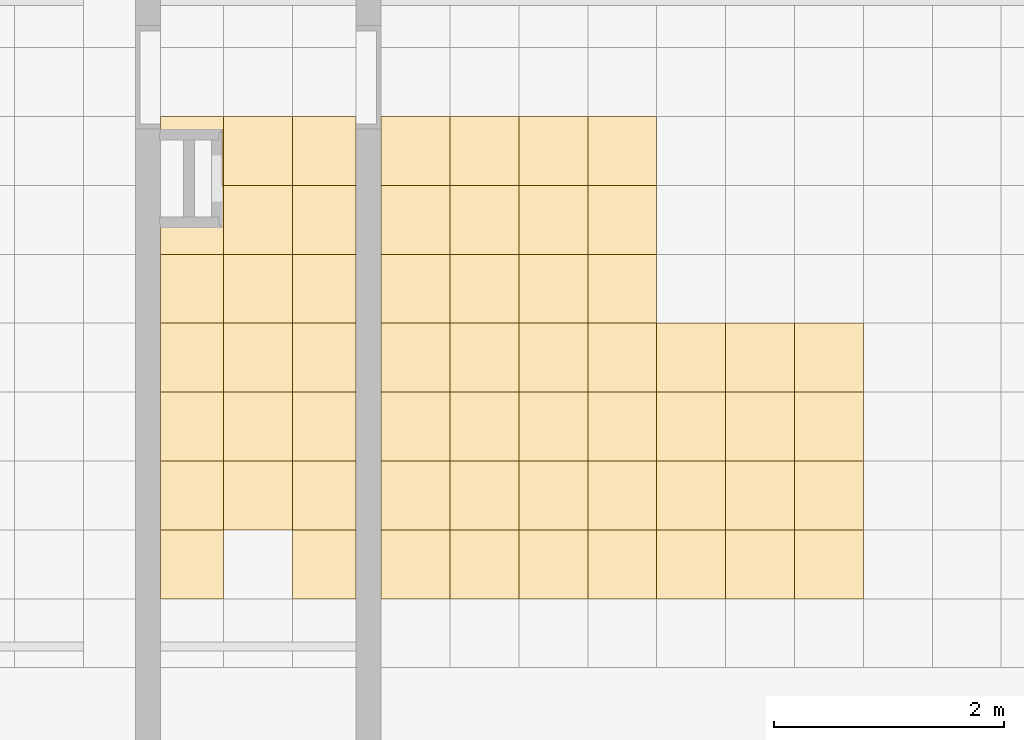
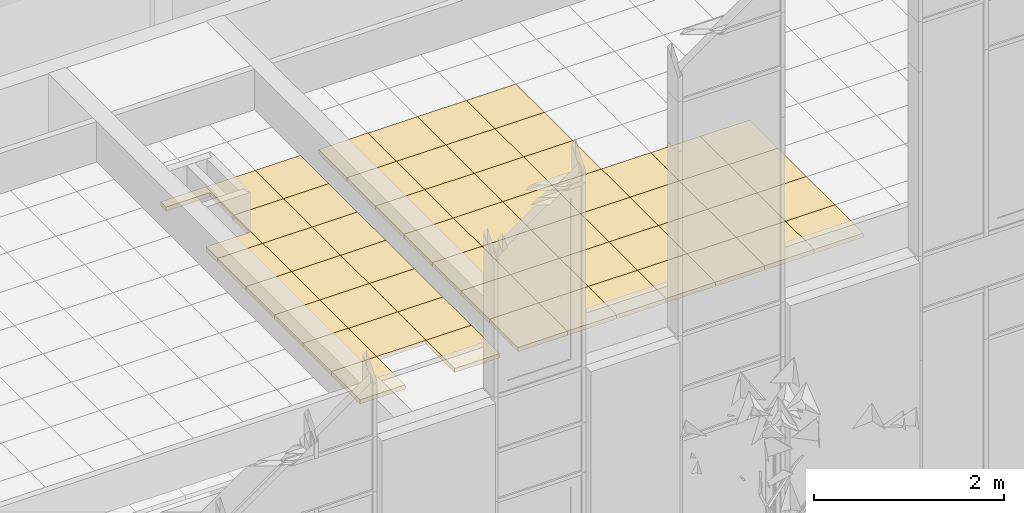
# One storey, part 196 of 246: 60 coverings.
"""IFC2X3 building model written with IfcOpenShell, lengths in millimetres."""

from ifc_helpers import new_model, entity, si_unit, converted_unit, derived_unit, money_unit, direction, frame, origin_with_axes, place, context, subcontext, project, spatial, faceted_brep, material, material_list, type_object, element, save


model = new_model("IFC2X3")

# Units and contexts
model_context = context("Model", 3, precision=0.01, world=origin_with_axes(), true_north=direction((0.0, 1.0)))
body_context = subcontext(model_context, "Body", "Model", "MODEL_VIEW")
ifc_project = project(units=[si_unit("LENGTHUNIT", "METRE", prefix="MILLI"), si_unit("AREAUNIT", "SQUARE_METRE"), si_unit("VOLUMEUNIT", "CUBIC_METRE"), converted_unit("PLANEANGLEUNIT", "DEGREE", entity("IfcPlaneAngleMeasure", 0.0174532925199), si_unit("PLANEANGLEUNIT", "RADIAN"), dimensions=[0, 0, 0, 0, 0, 0, 0]), si_unit("SOLIDANGLEUNIT", "STERADIAN"), money_unit("EUR"), converted_unit("TIMEUNIT", "Year", entity("IfcTimeMeasure", 31556926.0), si_unit("TIMEUNIT", "SECOND"), dimensions=[0, 0, 1, 0, 0, 0, 0]), si_unit("MASSUNIT", "GRAM", prefix="KILO"), si_unit("THERMODYNAMICTEMPERATUREUNIT", "DEGREE_CELSIUS"), si_unit("LUMINOUSINTENSITYUNIT", "LUMEN"), si_unit("ENERGYUNIT", "JOULE", prefix="MEGA"), derived_unit("THERMALCONDUCTANCEUNIT", [(si_unit("POWERUNIT", "WATT"), 1), (si_unit("LENGTHUNIT", "METRE"), -1), (si_unit("THERMODYNAMICTEMPERATUREUNIT", "KELVIN"), -1)]), derived_unit("SPECIFICHEATCAPACITYUNIT", [(si_unit("ENERGYUNIT", "JOULE"), 1), (si_unit("MASSUNIT", "GRAM", prefix="KILO"), -1), (si_unit("THERMODYNAMICTEMPERATUREUNIT", "KELVIN"), -1)]), derived_unit("MASSDENSITYUNIT", [(si_unit("MASSUNIT", "GRAM", prefix="KILO"), 1), (si_unit("VOLUMEUNIT", "CUBIC_METRE"), -1)])], contexts=[model_context])

# Site, building, storey
site_placement = place(None, origin_with_axes())
site = spatial("IfcSite", under=ifc_project, at=site_placement, Name="L.Koidula tn 11b", CompositionType="ELEMENT")
building_placement = place(site_placement, origin_with_axes())
building = spatial("IfcBuilding", under=site, at=building_placement, Name="Rakvere Riigigümnaasium", CompositionType="ELEMENT")
storey_placement = place(building_placement, origin_with_axes())
storey = spatial("IfcBuildingStorey", under=building, at=storey_placement, Name="1.korrus 0,00", CompositionType="ELEMENT", Elevation=0.0)

# Coverings
ifc_material_1 = material(Name="Karkass")
ifc_material_2 = material(Name="Kipsplaat")
ifc_material_list = material_list([ifc_material_1, ifc_material_2])
covering_type = type_object("IfcCoveringType", Name="SA-LV-Kips-moodul 55", PredefinedType="CEILING")
covering_1_placement = place(storey_placement, frame((84889.6975378, 8090.45445845, 2750.0), z_axis=(0.0, 0.0, 1.0), x_axis=(1.0, 0.0, 0.0)))
element("IfcCovering", 1, at=covering_1_placement, inside=storey, type_object=covering_type, material=ifc_material_list, Name="L-03", PredefinedType="CEILING", context=body_context, shape_type="Brep", body=[
    faceted_brep([(-550.000060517, 0.0, 12.5), (-550.000060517, 0.0, 54.5), (0.0, 0.0, 54.5), (0.0, 0.0, 12.5), (-550.000060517, -599.999985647, 12.5), (-550.000060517, -599.999985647, 54.5), (0.0, -599.999985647, 54.5), (0.0, -599.999985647, 12.5)], [[[0, 1, 2, 3]], [[4, 5, 1, 0]], [[2, 1, 5, 6]], [[3, 2, 6, 7]], [[3, 7, 4, 0]], [[7, 6, 5, 4]]]),
    faceted_brep([(0.0, 0.0, 0.0), (-550.000060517, 0.0, 0.0), (-550.000060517, 0.0, 12.5), (0.0, 0.0, 12.5), (0.0, -599.999985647, 0.0), (-550.000060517, -599.999985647, 0.0), (-550.000060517, -599.999985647, 12.5), (0.0, -599.999985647, 12.5)], [[[0, 1, 2, 3]], [[0, 4, 5, 1]], [[1, 5, 6, 2]], [[3, 2, 6, 7]], [[4, 0, 3, 7]], [[5, 4, 7, 6]]]),
])
covering_2_placement = place(storey_placement, frame((84889.6974833, 8690.4544588, 2750.0), z_axis=(0.0, 0.0, 1.0), x_axis=(1.0, 0.0, 0.0)))
element("IfcCovering", 2, at=covering_2_placement, inside=storey, type_object=covering_type, material=ifc_material_list, Name="L-03", PredefinedType="CEILING", context=body_context, shape_type="Brep", body=[
    faceted_brep([(-549.999958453, 0.0, 12.5), (-549.999958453, 0.0, 54.5), (0.0, 0.0, 54.5), (0.0, 0.0, 12.5), (-549.999958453, -599.999985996, 12.5), (-549.999958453, -599.999985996, 54.5), (0.0, -599.999985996, 54.5), (0.0, -599.999985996, 12.5)], [[[0, 1, 2, 3]], [[4, 5, 1, 0]], [[2, 1, 5, 6]], [[3, 2, 6, 7]], [[3, 7, 4, 0]], [[7, 6, 5, 4]]]),
    faceted_brep([(0.0, 0.0, 0.0), (-549.999958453, 0.0, 0.0), (-549.999958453, 0.0, 12.5), (0.0, 0.0, 12.5), (0.0, -599.999985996, 0.0), (-549.999958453, -599.999985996, 0.0), (-549.999958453, -599.999985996, 12.5), (0.0, -599.999985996, 12.5)], [[[0, 1, 2, 3]], [[0, 4, 5, 1]], [[1, 5, 6, 2]], [[3, 2, 6, 7]], [[4, 0, 3, 7]], [[5, 4, 7, 6]]]),
])
covering_3_placement = place(storey_placement, frame((84889.6975307, 9290.4544918, 2750.0), z_axis=(0.0, 0.0, 1.0), x_axis=(1.0, 0.0, 0.0)))
element("IfcCovering", 3, at=covering_3_placement, inside=storey, type_object=covering_type, material=ifc_material_list, Name="L-03", PredefinedType="CEILING", context=body_context, shape_type="Brep", body=[
    faceted_brep([(-549.999997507, 0.0, 12.5), (-549.999997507, 0.0, 54.5), (0.0, 0.0, 54.5), (0.0, 0.0, 12.5), (-549.999997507, -600.000018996, 12.5), (-549.999997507, -600.000018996, 54.5), (0.0, -600.000018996, 54.5), (0.0, -600.000018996, 12.5)], [[[0, 1, 2, 3]], [[4, 5, 1, 0]], [[2, 1, 5, 6]], [[3, 2, 6, 7]], [[3, 7, 4, 0]], [[7, 6, 5, 4]]]),
    faceted_brep([(0.0, 0.0, 0.0), (-549.999997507, 0.0, 0.0), (-549.999997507, 0.0, 12.5), (0.0, 0.0, 12.5), (0.0, -600.000018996, 0.0), (-549.999997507, -600.000018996, 0.0), (-549.999997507, -600.000018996, 12.5), (0.0, -600.000018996, 12.5)], [[[0, 1, 2, 3]], [[0, 4, 5, 1]], [[1, 5, 6, 2]], [[3, 2, 6, 7]], [[4, 0, 3, 7]], [[5, 4, 7, 6]]]),
])
for number, where, z_axis, x_axis, name in (
    (4, (84889.6975109, 9890.4544728, 2750.0), (0.0, 0.0, 1.0), (1.0, 0.0, 0.0), "L-03"),
    (5, (84889.6975109, 10490.4544728, 2750.0), (0.0, 0.0, 1.0), (1.0, 0.0, 0.0), "L-03"),
):
    element("IfcCovering", number, at=place(storey_placement, frame(where, z_axis=z_axis, x_axis=x_axis)), inside=storey, type_object=covering_type, material=ifc_material_list, Name=name, PredefinedType="CEILING", context=body_context, shape_type="Brep", body=[
        faceted_brep([(-550.0, 0.0, 12.5), (-550.0, 0.0, 54.5), (0.0, 0.0, 54.5), (0.0, 0.0, 12.5), (-550.0, -600.0, 12.5), (-550.0, -600.0, 54.5), (0.0, -600.0, 54.5), (0.0, -600.0, 12.5)], [[[0, 1, 2, 3]], [[4, 5, 1, 0]], [[2, 1, 5, 6]], [[3, 2, 6, 7]], [[3, 7, 4, 0]], [[7, 6, 5, 4]]]),
        faceted_brep([(0.0, 0.0, 0.0), (-550.0, 0.0, 0.0), (-550.0, 0.0, 12.5), (0.0, 0.0, 12.5), (0.0, -600.0, 0.0), (-550.0, -600.0, 0.0), (-550.0, -600.0, 12.5), (0.0, -600.0, 12.5)], [[[0, 1, 2, 3]], [[0, 4, 5, 1]], [[1, 5, 6, 2]], [[3, 2, 6, 7]], [[4, 0, 3, 7]], [[5, 4, 7, 6]]]),
    ])
covering_4_placement = place(storey_placement, frame((83189.6974921, 7490.4544438, 2750.0), z_axis=(0.0, 0.0, 1.0), x_axis=(1.0, 0.0, 0.0)))
element("IfcCovering", 6, at=covering_4_placement, inside=storey, type_object=covering_type, material=ifc_material_list, Name="L-03", PredefinedType="CEILING", context=body_context, shape_type="Brep", body=[
    faceted_brep([(0.0, -599.999970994, 12.5), (0.0, -599.999970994, 54.5), (0.0, 0.0, 54.5), (0.0, 0.0, 12.5), (550.000044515, -599.999970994, 12.5), (550.000044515, -599.999970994, 54.5), (550.000044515, 0.0, 54.5), (550.000044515, 0.0, 12.5)], [[[0, 1, 2, 3]], [[4, 5, 1, 0]], [[2, 1, 5, 6]], [[3, 2, 6, 7]], [[3, 7, 4, 0]], [[7, 6, 5, 4]]]),
    faceted_brep([(0.0, 0.0, 0.0), (0.0, -599.999970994, 0.0), (0.0, -599.999970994, 12.5), (0.0, 0.0, 12.5), (550.000044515, 0.0, 0.0), (550.000044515, -599.999970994, 0.0), (550.000044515, -599.999970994, 12.5), (550.000044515, 0.0, 12.5)], [[[0, 1, 2, 3]], [[0, 4, 5, 1]], [[1, 5, 6, 2]], [[3, 2, 6, 7]], [[4, 0, 3, 7]], [[5, 4, 7, 6]]]),
])
covering_5_placement = place(storey_placement, frame((84339.6975109, 11090.4544712, 2750.0), z_axis=(0.0, 0.0, 1.0), x_axis=(1.0, 0.0, 0.0)))
element("IfcCovering", 7, at=covering_5_placement, inside=storey, type_object=covering_type, material=ifc_material_list, Name="L-03", PredefinedType="CEILING", context=body_context, shape_type="Brep", body=[
    faceted_brep([(-599.999993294, 0.0, 12.5), (-599.999993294, 0.0, 54.5), (0.0, 0.0, 54.5), (0.0, 0.0, 12.5), (-599.999993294, -599.999993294, 12.5), (-599.999993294, -599.999993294, 54.5), (0.0, -599.999993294, 54.5), (0.0, -599.999993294, 12.5)], [[[0, 1, 2, 3]], [[4, 5, 1, 0]], [[2, 1, 5, 6]], [[3, 2, 6, 7]], [[3, 7, 4, 0]], [[7, 6, 5, 4]]]),
    faceted_brep([(0.0, 0.0, 0.0), (-599.999993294, 0.0, 0.0), (-599.999993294, 0.0, 12.5), (0.0, 0.0, 12.5), (0.0, -599.999993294, 0.0), (-599.999993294, -599.999993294, 0.0), (-599.999993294, -599.999993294, 12.5), (0.0, -599.999993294, 12.5)], [[[0, 1, 2, 3]], [[0, 4, 5, 1]], [[1, 5, 6, 2]], [[3, 2, 6, 7]], [[4, 0, 3, 7]], [[5, 4, 7, 6]]]),
])
covering_6_placement = place(storey_placement, frame((83189.6975126, 11090.4544728, 2750.0), z_axis=(0.0, 0.0, 1.0), x_axis=(1.0, 0.0, 0.0)))
element("IfcCovering", 8, at=covering_6_placement, inside=storey, type_object=covering_type, material=ifc_material_list, Name="L-03", PredefinedType="CEILING", context=body_context, shape_type="Brep", body=[
    faceted_brep([(0.0, -115.001137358, 12.5), (0.0, -115.001137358, 54.5), (0.0, 0.0, 54.5), (0.0, 0.0, 12.5), (534.799996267, -115.001137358, 12.5), (534.799996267, -115.001137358, 54.5), (534.799996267, -600.000009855, 54.5), (550.000000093, -600.000009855, 54.5), (550.000000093, 0.0, 54.5), (550.000000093, 0.0, 12.5), (550.000000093, -600.000009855, 12.5), (534.799996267, -600.000009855, 12.5)], [[[0, 1, 2, 3]], [[4, 5, 1, 0]], [[2, 1, 5, 6, 7, 8]], [[3, 2, 8, 9]], [[3, 9, 10, 11, 4, 0]], [[11, 6, 5, 4]], [[10, 7, 6, 11]], [[9, 8, 7, 10]]]),
    faceted_brep([(0.0, 0.0, 0.0), (0.0, -115.001137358, 0.0), (0.0, -115.001137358, 12.5), (0.0, 0.0, 12.5), (550.000000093, 0.0, 0.0), (550.000000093, -600.000009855, 0.0), (534.799996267, -600.000009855, 0.0), (534.799996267, -115.001137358, 0.0), (534.799996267, -115.001137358, 12.5), (534.799996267, -600.000009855, 12.5), (550.000000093, -600.000009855, 12.5), (550.000000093, 0.0, 12.5)], [[[0, 1, 2, 3]], [[0, 4, 5, 6, 7, 1]], [[1, 7, 8, 2]], [[3, 2, 8, 9, 10, 11]], [[4, 0, 3, 11]], [[5, 4, 11, 10]], [[6, 5, 10, 9]], [[7, 6, 9, 8]]]),
])
covering_7_placement = place(storey_placement, frame((84339.6975109, 10490.4544661, 2750.0), z_axis=(0.0, 0.0, 1.0), x_axis=(1.0, 0.0, 0.0)))
element("IfcCovering", 9, at=covering_7_placement, inside=storey, type_object=covering_type, material=ifc_material_list, Name="L-03", PredefinedType="CEILING", context=body_context, shape_type="Brep", body=[
    faceted_brep([(-599.999993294, 0.0, 12.5), (-599.999993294, 0.0, 54.5), (0.0, 0.0, 54.5), (0.0, 0.0, 12.5), (-599.999993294, -599.999993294, 12.5), (-599.999993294, -599.999993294, 54.5), (0.0, -599.999993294, 54.5), (0.0, -599.999993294, 12.5)], [[[0, 1, 2, 3]], [[4, 5, 1, 0]], [[2, 1, 5, 6]], [[3, 2, 6, 7]], [[3, 7, 4, 0]], [[7, 6, 5, 4]]]),
    faceted_brep([(0.0, 0.0, 0.0), (-599.999993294, 0.0, 0.0), (-599.999993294, 0.0, 12.5), (0.0, 0.0, 12.5), (0.0, -599.999993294, 0.0), (-599.999993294, -599.999993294, 0.0), (-599.999993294, -599.999993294, 12.5), (0.0, -599.999993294, 12.5)], [[[0, 1, 2, 3]], [[0, 4, 5, 1]], [[1, 5, 6, 2]], [[3, 2, 6, 7]], [[4, 0, 3, 7]], [[5, 4, 7, 6]]]),
])
covering_8_placement = place(storey_placement, frame((83189.6975181, 9890.4544728, 2750.0), z_axis=(0.0, 0.0, 1.0), x_axis=(1.0, 0.0, 0.0)))
element("IfcCovering", 10, at=covering_8_placement, inside=storey, type_object=covering_type, material=ifc_material_list, Name="L-03", PredefinedType="CEILING", context=body_context, shape_type="Brep", body=[
    faceted_brep([(549.999985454, 0.0, 12.5), (549.999985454, 0.0, 54.5), (0.0, 0.0, 54.5), (0.0, 0.0, 12.5), (549.999985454, 599.999992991, 12.5), (549.999985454, 599.999992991, 54.5), (534.800003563, 599.999992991, 54.5), (534.800003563, 245.001724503, 54.5), (0.299978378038, 245.001724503, 54.5), (0.0, 245.001724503, 54.5), (0.0, 245.001724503, 12.5), (0.299978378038, 245.001724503, 12.5), (534.800003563, 245.001724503, 12.5), (534.800003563, 599.999992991, 12.5)], [[[0, 1, 2, 3]], [[4, 5, 1, 0]], [[2, 1, 5, 6, 7, 8, 9]], [[3, 2, 9, 10]], [[3, 10, 11, 12, 13, 4, 0]], [[13, 6, 5, 4]], [[12, 7, 6, 13]], [[11, 8, 7, 12]], [[10, 9, 8, 11]]]),
    faceted_brep([(0.0, 0.0, 0.0), (549.999985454, 0.0, 0.0), (549.999985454, 0.0, 12.5), (0.0, 0.0, 12.5), (0.0, 245.001724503, 0.0), (0.299978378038, 245.001724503, 0.0), (534.800003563, 245.001724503, 0.0), (534.800003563, 599.999992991, 0.0), (549.999985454, 599.999992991, 0.0), (549.999985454, 599.999992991, 12.5), (534.800003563, 599.999992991, 12.5), (534.800003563, 245.001724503, 12.5), (0.299978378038, 245.001724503, 12.5), (0.0, 245.001724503, 12.5)], [[[0, 1, 2, 3]], [[0, 4, 5, 6, 7, 8, 1]], [[1, 8, 9, 2]], [[3, 2, 9, 10, 11, 12, 13]], [[4, 0, 3, 13]], [[5, 4, 13, 12]], [[6, 5, 12, 11]], [[7, 6, 11, 10]], [[8, 7, 10, 9]]]),
])
covering_9_placement = place(storey_placement, frame((84339.6975127, 9890.454485, 2750.0), z_axis=(0.0, 0.0, 1.0), x_axis=(1.0, 0.0, 0.0)))
element("IfcCovering", 11, at=covering_9_placement, inside=storey, type_object=covering_type, material=ifc_material_list, Name="L-03", PredefinedType="CEILING", context=body_context, shape_type="Brep", body=[
    faceted_brep([(-600.000012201, 0.0, 12.5), (-600.000012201, 0.0, 54.5), (0.0, 0.0, 54.5), (0.0, 0.0, 12.5), (-600.000012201, -600.000012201, 12.5), (-600.000012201, -600.000012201, 54.5), (0.0, -600.000012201, 54.5), (0.0, -600.000012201, 12.5)], [[[0, 1, 2, 3]], [[4, 5, 1, 0]], [[2, 1, 5, 6]], [[3, 2, 6, 7]], [[3, 7, 4, 0]], [[7, 6, 5, 4]]]),
    faceted_brep([(0.0, 0.0, 0.0), (-600.000012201, 0.0, 0.0), (-600.000012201, 0.0, 12.5), (0.0, 0.0, 12.5), (0.0, -600.000012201, 0.0), (-600.000012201, -600.000012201, 0.0), (-600.000012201, -600.000012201, 12.5), (0.0, -600.000012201, 12.5)], [[[0, 1, 2, 3]], [[0, 4, 5, 1]], [[1, 5, 6, 2]], [[3, 2, 6, 7]], [[4, 0, 3, 7]], [[5, 4, 7, 6]]]),
])
covering_10_placement = place(storey_placement, frame((83189.6975187, 9890.454485, 2750.0), z_axis=(0.0, 0.0, 1.0), x_axis=(1.0, 0.0, 0.0)))
element("IfcCovering", 12, at=covering_10_placement, inside=storey, type_object=covering_type, material=ifc_material_list, Name="L-03", PredefinedType="CEILING", context=body_context, shape_type="Brep", body=[
    faceted_brep([(0.0, -600.000012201, 12.5), (0.0, -600.000012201, 54.5), (0.0, 0.0, 54.5), (0.0, 0.0, 12.5), (549.999981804, -600.000012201, 12.5), (549.999981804, -600.000012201, 54.5), (549.999981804, 0.0, 54.5), (549.999981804, 0.0, 12.5)], [[[0, 1, 2, 3]], [[4, 5, 1, 0]], [[2, 1, 5, 6]], [[3, 2, 6, 7]], [[3, 7, 4, 0]], [[7, 6, 5, 4]]]),
    faceted_brep([(0.0, 0.0, 0.0), (0.0, -600.000012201, 0.0), (0.0, -600.000012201, 12.5), (0.0, 0.0, 12.5), (549.999981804, 0.0, 0.0), (549.999981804, -600.000012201, 0.0), (549.999981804, -600.000012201, 12.5), (549.999981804, 0.0, 12.5)], [[[0, 1, 2, 3]], [[0, 4, 5, 1]], [[1, 5, 6, 2]], [[3, 2, 6, 7]], [[4, 0, 3, 7]], [[5, 4, 7, 6]]]),
])
covering_11_placement = place(storey_placement, frame((84339.6975332, 9290.4544918, 2750.0), z_axis=(0.0, 0.0, 1.0), x_axis=(1.0, 0.0, 0.0)))
element("IfcCovering", 13, at=covering_11_placement, inside=storey, type_object=covering_type, material=ifc_material_list, Name="L-03", PredefinedType="CEILING", context=body_context, shape_type="Brep", body=[
    faceted_brep([(-600.000018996, 0.0, 12.5), (-600.000018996, 0.0, 54.5), (0.0, 0.0, 54.5), (0.0, 0.0, 12.5), (-600.000018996, -600.000018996, 12.5), (-600.000018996, -600.000018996, 54.5), (0.0, -600.000018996, 54.5), (0.0, -600.000018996, 12.5)], [[[0, 1, 2, 3]], [[4, 5, 1, 0]], [[2, 1, 5, 6]], [[3, 2, 6, 7]], [[3, 7, 4, 0]], [[7, 6, 5, 4]]]),
    faceted_brep([(0.0, 0.0, 0.0), (-600.000018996, 0.0, 0.0), (-600.000018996, 0.0, 12.5), (0.0, 0.0, 12.5), (0.0, -600.000018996, 0.0), (-600.000018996, -600.000018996, 0.0), (-600.000018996, -600.000018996, 12.5), (0.0, -600.000018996, 12.5)], [[[0, 1, 2, 3]], [[0, 4, 5, 1]], [[1, 5, 6, 2]], [[3, 2, 6, 7]], [[4, 0, 3, 7]], [[5, 4, 7, 6]]]),
])
covering_12_placement = place(storey_placement, frame((83189.6975167, 9290.4544918, 2750.0), z_axis=(0.0, 0.0, 1.0), x_axis=(1.0, 0.0, 0.0)))
element("IfcCovering", 14, at=covering_12_placement, inside=storey, type_object=covering_type, material=ifc_material_list, Name="L-03", PredefinedType="CEILING", context=body_context, shape_type="Brep", body=[
    faceted_brep([(0.0, -600.000018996, 12.5), (0.0, -600.000018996, 54.5), (0.0, 0.0, 54.5), (0.0, 0.0, 12.5), (549.999997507, -600.000018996, 12.5), (549.999997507, -600.000018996, 54.5), (549.999997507, 0.0, 54.5), (549.999997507, 0.0, 12.5)], [[[0, 1, 2, 3]], [[4, 5, 1, 0]], [[2, 1, 5, 6]], [[3, 2, 6, 7]], [[3, 7, 4, 0]], [[7, 6, 5, 4]]]),
    faceted_brep([(0.0, 0.0, 0.0), (0.0, -600.000018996, 0.0), (0.0, -600.000018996, 12.5), (0.0, 0.0, 12.5), (549.999997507, 0.0, 0.0), (549.999997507, -600.000018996, 0.0), (549.999997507, -600.000018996, 12.5), (549.999997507, 0.0, 12.5)], [[[0, 1, 2, 3]], [[0, 4, 5, 1]], [[1, 5, 6, 2]], [[3, 2, 6, 7]], [[4, 0, 3, 7]], [[5, 4, 7, 6]]]),
])
covering_13_placement = place(storey_placement, frame((84339.6975249, 8690.4544588, 2750.0), z_axis=(0.0, 0.0, 1.0), x_axis=(1.0, 0.0, 0.0)))
element("IfcCovering", 15, at=covering_13_placement, inside=storey, type_object=covering_type, material=ifc_material_list, Name="L-03", PredefinedType="CEILING", context=body_context, shape_type="Brep", body=[
    faceted_brep([(-600.00002906, 0.0, 12.5), (-600.00002906, 0.0, 54.5), (0.0, 0.0, 54.5), (0.0, 0.0, 12.5), (-600.00002906, -599.999985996, 12.5), (-600.00002906, -599.999985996, 54.5), (0.0, -599.999985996, 54.5), (0.0, -599.999985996, 12.5)], [[[0, 1, 2, 3]], [[4, 5, 1, 0]], [[2, 1, 5, 6]], [[3, 2, 6, 7]], [[3, 7, 4, 0]], [[7, 6, 5, 4]]]),
    faceted_brep([(0.0, 0.0, 0.0), (-600.00002906, 0.0, 0.0), (-600.00002906, 0.0, 12.5), (0.0, 0.0, 12.5), (0.0, -599.999985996, 0.0), (-600.00002906, -599.999985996, 0.0), (-600.00002906, -599.999985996, 12.5), (0.0, -599.999985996, 12.5)], [[[0, 1, 2, 3]], [[0, 4, 5, 1]], [[1, 5, 6, 2]], [[3, 2, 6, 7]], [[4, 0, 3, 7]], [[5, 4, 7, 6]]]),
])
covering_14_placement = place(storey_placement, frame((83189.6974943, 8690.4544588, 2750.0), z_axis=(0.0, 0.0, 1.0), x_axis=(1.0, 0.0, 0.0)))
element("IfcCovering", 16, at=covering_14_placement, inside=storey, type_object=covering_type, material=ifc_material_list, Name="L-03", PredefinedType="CEILING", context=body_context, shape_type="Brep", body=[
    faceted_brep([(0.0, -599.999985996, 12.5), (0.0, -599.999985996, 54.5), (0.0, 0.0, 54.5), (0.0, 0.0, 12.5), (550.000001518, -599.999985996, 12.5), (550.000001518, -599.999985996, 54.5), (550.000001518, 0.0, 54.5), (550.000001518, 0.0, 12.5)], [[[0, 1, 2, 3]], [[4, 5, 1, 0]], [[2, 1, 5, 6]], [[3, 2, 6, 7]], [[3, 7, 4, 0]], [[7, 6, 5, 4]]]),
    faceted_brep([(0.0, 0.0, 0.0), (0.0, -599.999985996, 0.0), (0.0, -599.999985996, 12.5), (0.0, 0.0, 12.5), (550.000001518, 0.0, 0.0), (550.000001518, -599.999985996, 0.0), (550.000001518, -599.999985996, 12.5), (550.000001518, 0.0, 12.5)], [[[0, 1, 2, 3]], [[0, 4, 5, 1]], [[1, 5, 6, 2]], [[3, 2, 6, 7]], [[4, 0, 3, 7]], [[5, 4, 7, 6]]]),
])
covering_15_placement = place(storey_placement, frame((84339.6974773, 8090.45445845, 2750.0), z_axis=(0.0, 0.0, 1.0), x_axis=(1.0, 0.0, 0.0)))
element("IfcCovering", 17, at=covering_15_placement, inside=storey, type_object=covering_type, material=ifc_material_list, Name="L-03", PredefinedType="CEILING", context=body_context, shape_type="Brep", body=[
    faceted_brep([(-599.999985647, 0.0, 12.5), (-599.999985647, 0.0, 54.5), (0.0, 0.0, 54.5), (0.0, 0.0, 12.5), (-599.999985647, -599.999985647, 12.5), (-599.999985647, -599.999985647, 54.5), (0.0, -599.999985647, 54.5), (0.0, -599.999985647, 12.5)], [[[0, 1, 2, 3]], [[4, 5, 1, 0]], [[2, 1, 5, 6]], [[3, 2, 6, 7]], [[3, 7, 4, 0]], [[7, 6, 5, 4]]]),
    faceted_brep([(0.0, 0.0, 0.0), (-599.999985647, 0.0, 0.0), (-599.999985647, 0.0, 12.5), (0.0, 0.0, 12.5), (0.0, -599.999985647, 0.0), (-599.999985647, -599.999985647, 0.0), (-599.999985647, -599.999985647, 12.5), (0.0, -599.999985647, 12.5)], [[[0, 1, 2, 3]], [[0, 4, 5, 1]], [[1, 5, 6, 2]], [[3, 2, 6, 7]], [[4, 0, 3, 7]], [[5, 4, 7, 6]]]),
])
covering_16_placement = place(storey_placement, frame((83189.6975351, 8090.45445845, 2750.0), z_axis=(0.0, 0.0, 1.0), x_axis=(1.0, 0.0, 0.0)))
element("IfcCovering", 18, at=covering_16_placement, inside=storey, type_object=covering_type, material=ifc_material_list, Name="L-03", PredefinedType="CEILING", context=body_context, shape_type="Brep", body=[
    faceted_brep([(0.0, -599.999985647, 12.5), (0.0, -599.999985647, 54.5), (0.0, 0.0, 54.5), (0.0, 0.0, 12.5), (549.999956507, -599.999985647, 12.5), (549.999956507, -599.999985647, 54.5), (549.999956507, 0.0, 54.5), (549.999956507, 0.0, 12.5)], [[[0, 1, 2, 3]], [[4, 5, 1, 0]], [[2, 1, 5, 6]], [[3, 2, 6, 7]], [[3, 7, 4, 0]], [[7, 6, 5, 4]]]),
    faceted_brep([(0.0, 0.0, 0.0), (0.0, -599.999985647, 0.0), (0.0, -599.999985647, 12.5), (0.0, 0.0, 12.5), (549.999956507, 0.0, 0.0), (549.999956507, -599.999985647, 0.0), (549.999956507, -599.999985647, 12.5), (549.999956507, 0.0, 12.5)], [[[0, 1, 2, 3]], [[0, 4, 5, 1]], [[1, 5, 6, 2]], [[3, 2, 6, 7]], [[4, 0, 3, 7]], [[5, 4, 7, 6]]]),
])
covering_17_placement = place(storey_placement, frame((84889.6974912, 7490.4544438, 2750.0), z_axis=(0.0, 0.0, 1.0), x_axis=(1.0, 0.0, 0.0)))
element("IfcCovering", 19, at=covering_17_placement, inside=storey, type_object=covering_type, material=ifc_material_list, Name="L-03", PredefinedType="CEILING", context=body_context, shape_type="Brep", body=[
    faceted_brep([(-549.999983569, 0.0, 12.5), (-549.999983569, 0.0, 54.5), (0.0, 0.0, 54.5), (0.0, 0.0, 12.5), (-549.999983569, -599.999970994, 12.5), (-549.999983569, -599.999970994, 54.5), (0.0, -599.999970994, 54.5), (0.0, -599.999970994, 12.5)], [[[0, 1, 2, 3]], [[4, 5, 1, 0]], [[2, 1, 5, 6]], [[3, 2, 6, 7]], [[3, 7, 4, 0]], [[7, 6, 5, 4]]]),
    faceted_brep([(0.0, 0.0, 0.0), (-549.999983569, 0.0, 0.0), (-549.999983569, 0.0, 12.5), (0.0, 0.0, 12.5), (0.0, -599.999970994, 0.0), (-549.999983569, -599.999970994, 0.0), (-549.999983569, -599.999970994, 12.5), (0.0, -599.999970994, 12.5)], [[[0, 1, 2, 3]], [[0, 4, 5, 1]], [[1, 5, 6, 2]], [[3, 2, 6, 7]], [[4, 0, 3, 7]], [[5, 4, 7, 6]]]),
])
covering_18_placement = place(storey_placement, frame((84889.6975109, 11090.4544735, 2750.0), z_axis=(0.0, 0.0, 1.0), x_axis=(1.0, 0.0, 0.0)))
element("IfcCovering", 20, at=covering_18_placement, inside=storey, type_object=covering_type, material=ifc_material_list, Name="L-03", PredefinedType="CEILING", context=body_context, shape_type="Brep", body=[
    faceted_brep([(-550.0, 0.0, 12.5), (-550.0, 0.0, 54.5), (0.0, 0.0, 54.5), (0.0, 0.0, 12.5), (-550.0, -600.0, 12.5), (-550.0, -600.0, 54.5), (0.0, -600.0, 54.5), (0.0, -600.0, 12.5)], [[[0, 1, 2, 3]], [[4, 5, 1, 0]], [[2, 1, 5, 6]], [[3, 2, 6, 7]], [[3, 7, 4, 0]], [[7, 6, 5, 4]]]),
    faceted_brep([(0.0, 0.0, 0.0), (-550.0, 0.0, 0.0), (-550.0, 0.0, 12.5), (0.0, 0.0, 12.5), (0.0, -600.0, 0.0), (-550.0, -600.0, 0.0), (-550.0, -600.0, 12.5), (0.0, -600.0, 12.5)], [[[0, 1, 2, 3]], [[0, 4, 5, 1]], [[1, 5, 6, 2]], [[3, 2, 6, 7]], [[4, 0, 3, 7]], [[5, 4, 7, 6]]]),
])
for number, where, z_axis, x_axis, name in (
    (21, (85709.885345, 10490.4535941, 2750.0), (0.0, 0.0, 1.0), (1.0, 0.0, 0.0), "L-03"),
    (22, (85709.885345, 9890.45359412, 2750.0), (0.0, 0.0, 1.0), (1.0, 0.0, 0.0), "L-03"),
    (23, (85709.885345, 9290.45359412, 2750.0), (0.0, 0.0, 1.0), (1.0, 0.0, 0.0), "L-03"),
    (24, (85709.885345, 8690.45359412, 2750.0), (0.0, 0.0, 1.0), (1.0, 0.0, 0.0), "L-03"),
    (25, (85709.885345, 8090.45359412, 2750.0), (0.0, 0.0, 1.0), (1.0, 0.0, 0.0), "L-03"),
    (26, (85709.885345, 7490.45359412, 2750.0), (0.0, 0.0, 1.0), (1.0, 0.0, 0.0), "L-03"),
    (27, (85709.885345, 6890.45359412, 2750.0), (0.0, 0.0, 1.0), (1.0, 0.0, 0.0), "L-03"),
):
    element("IfcCovering", number, at=place(storey_placement, frame(where, z_axis=z_axis, x_axis=x_axis)), inside=storey, type_object=covering_type, material=ifc_material_list, Name=name, PredefinedType="CEILING", context=body_context, shape_type="Brep", body=[
        faceted_brep([(599.999948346, 0.0, 12.5), (599.999948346, 0.0, 54.5), (0.0, 0.0, 54.5), (0.0, 0.0, 12.5), (599.999948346, 600.0, 12.5), (599.999948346, 600.0, 54.5), (0.0, 600.0, 54.5), (0.0, 600.0, 12.5)], [[[0, 1, 2, 3]], [[4, 5, 1, 0]], [[2, 1, 5, 6]], [[3, 2, 6, 7]], [[3, 7, 4, 0]], [[7, 6, 5, 4]]]),
        faceted_brep([(0.0, 0.0, 0.0), (599.999948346, 0.0, 0.0), (599.999948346, 0.0, 12.5), (0.0, 0.0, 12.5), (0.0, 600.0, 0.0), (599.999948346, 600.0, 0.0), (599.999948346, 600.0, 12.5), (0.0, 600.0, 12.5)], [[[0, 1, 2, 3]], [[0, 4, 5, 1]], [[1, 5, 6, 2]], [[3, 2, 6, 7]], [[4, 0, 3, 7]], [[5, 4, 7, 6]]]),
    ])
for number, where, z_axis, x_axis, name in (
    (28, (85109.885345, 7490.45359412, 2750.0), (0.0, 0.0, 1.0), (1.0, 0.0, 0.0), "L-03"),
    (29, (85109.885345, 8090.45359412, 2750.0), (0.0, 0.0, 1.0), (1.0, 0.0, 0.0), "L-03"),
    (30, (85109.885345, 8690.45359412, 2750.0), (0.0, 0.0, 1.0), (1.0, 0.0, 0.0), "L-03"),
    (31, (85109.885345, 9290.45359412, 2750.0), (0.0, 0.0, 1.0), (1.0, 0.0, 0.0), "L-03"),
    (32, (85109.885345, 9890.45359412, 2750.0), (0.0, 0.0, 1.0), (1.0, 0.0, 0.0), "L-03"),
    (33, (85109.885345, 10490.4535941, 2750.0), (0.0, 0.0, 1.0), (1.0, 0.0, 0.0), "L-03"),
    (34, (85109.885345, 6890.45359412, 2750.0), (0.0, 0.0, 1.0), (1.0, 0.0, 0.0), "L-03"),
):
    element("IfcCovering", number, at=place(storey_placement, frame(where, z_axis=z_axis, x_axis=x_axis)), inside=storey, type_object=covering_type, material=ifc_material_list, Name=name, PredefinedType="CEILING", context=body_context, shape_type="Brep", body=[
        faceted_brep([(600.0, 0.0, 12.5), (600.0, 0.0, 54.5), (0.0, 0.0, 54.5), (0.0, 0.0, 12.5), (600.0, 600.0, 12.5), (600.0, 600.0, 54.5), (0.0, 600.0, 54.5), (0.0, 600.0, 12.5)], [[[0, 1, 2, 3]], [[4, 5, 1, 0]], [[2, 1, 5, 6]], [[3, 2, 6, 7]], [[3, 7, 4, 0]], [[7, 6, 5, 4]]]),
        faceted_brep([(0.0, 0.0, 0.0), (600.0, 0.0, 0.0), (600.0, 0.0, 12.5), (0.0, 0.0, 12.5), (0.0, 600.0, 0.0), (600.0, 600.0, 0.0), (600.0, 600.0, 12.5), (0.0, 600.0, 12.5)], [[[0, 1, 2, 3]], [[0, 4, 5, 1]], [[1, 5, 6, 2]], [[3, 2, 6, 7]], [[4, 0, 3, 7]], [[5, 4, 7, 6]]]),
    ])
for number, where, z_axis, x_axis, name in (
    (35, (86909.8852933, 10490.4535941, 2750.0), (0.0, 0.0, 1.0), (1.0, 0.0, 0.0), "L-03"),
    (36, (86909.8852933, 9890.45359412, 2750.0), (0.0, 0.0, 1.0), (1.0, 0.0, 0.0), "L-03"),
    (37, (86909.8852933, 9290.45359412, 2750.0), (0.0, 0.0, 1.0), (1.0, 0.0, 0.0), "L-03"),
    (38, (86909.8852933, 8690.45359412, 2750.0), (0.0, 0.0, 1.0), (1.0, 0.0, 0.0), "L-03"),
    (39, (86909.8852933, 8090.45359412, 2750.0), (0.0, 0.0, 1.0), (1.0, 0.0, 0.0), "L-03"),
    (40, (86909.8852933, 7490.45359412, 2750.0), (0.0, 0.0, 1.0), (1.0, 0.0, 0.0), "L-03"),
    (41, (86909.8852933, 6890.45359412, 2750.0), (0.0, 0.0, 1.0), (1.0, 0.0, 0.0), "L-03"),
):
    element("IfcCovering", number, at=place(storey_placement, frame(where, z_axis=z_axis, x_axis=x_axis)), inside=storey, type_object=covering_type, material=ifc_material_list, Name=name, PredefinedType="CEILING", context=body_context, shape_type="Brep", body=[
        faceted_brep([(599.999948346, 0.0, 12.5), (599.999948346, 0.0, 54.5), (0.0, 0.0, 54.5), (0.0, 0.0, 12.5), (599.999948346, 600.0, 12.5), (599.999948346, 600.0, 54.5), (0.0, 600.0, 54.5), (0.0, 600.0, 12.5)], [[[0, 1, 2, 3]], [[4, 5, 1, 0]], [[2, 1, 5, 6]], [[3, 2, 6, 7]], [[3, 7, 4, 0]], [[7, 6, 5, 4]]]),
        faceted_brep([(0.0, 0.0, 0.0), (599.999948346, 0.0, 0.0), (599.999948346, 0.0, 12.5), (0.0, 0.0, 12.5), (0.0, 600.0, 0.0), (599.999948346, 600.0, 0.0), (599.999948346, 600.0, 12.5), (0.0, 600.0, 12.5)], [[[0, 1, 2, 3]], [[0, 4, 5, 1]], [[1, 5, 6, 2]], [[3, 2, 6, 7]], [[4, 0, 3, 7]], [[5, 4, 7, 6]]]),
    ])
for number, where, z_axis, x_axis, name in (
    (42, (86309.8852933, 7490.45359412, 2750.0), (0.0, 0.0, 1.0), (1.0, 0.0, 0.0), "L-03"),
    (43, (86309.8852933, 8090.45359412, 2750.0), (0.0, 0.0, 1.0), (1.0, 0.0, 0.0), "L-03"),
    (44, (86309.8852933, 8690.45359412, 2750.0), (0.0, 0.0, 1.0), (1.0, 0.0, 0.0), "L-03"),
    (45, (86309.8852933, 9290.45359412, 2750.0), (0.0, 0.0, 1.0), (1.0, 0.0, 0.0), "L-03"),
    (46, (86309.8852933, 9890.45359412, 2750.0), (0.0, 0.0, 1.0), (1.0, 0.0, 0.0), "L-03"),
    (47, (86309.8852933, 10490.4535941, 2750.0), (0.0, 0.0, 1.0), (1.0, 0.0, 0.0), "L-03"),
    (48, (86309.8852933, 6890.45359412, 2750.0), (0.0, 0.0, 1.0), (1.0, 0.0, 0.0), "L-03"),
):
    element("IfcCovering", number, at=place(storey_placement, frame(where, z_axis=z_axis, x_axis=x_axis)), inside=storey, type_object=covering_type, material=ifc_material_list, Name=name, PredefinedType="CEILING", context=body_context, shape_type="Brep", body=[
        faceted_brep([(600.0, 0.0, 12.5), (600.0, 0.0, 54.5), (0.0, 0.0, 54.5), (0.0, 0.0, 12.5), (600.0, 600.0, 12.5), (600.0, 600.0, 54.5), (0.0, 600.0, 54.5), (0.0, 600.0, 12.5)], [[[0, 1, 2, 3]], [[4, 5, 1, 0]], [[2, 1, 5, 6]], [[3, 2, 6, 7]], [[3, 7, 4, 0]], [[7, 6, 5, 4]]]),
        faceted_brep([(0.0, 0.0, 0.0), (600.0, 0.0, 0.0), (600.0, 0.0, 12.5), (0.0, 0.0, 12.5), (0.0, 600.0, 0.0), (600.0, 600.0, 0.0), (600.0, 600.0, 12.5), (0.0, 600.0, 12.5)], [[[0, 1, 2, 3]], [[0, 4, 5, 1]], [[1, 5, 6, 2]], [[3, 2, 6, 7]], [[4, 0, 3, 7]], [[5, 4, 7, 6]]]),
    ])
for number, where, z_axis, x_axis, name in (
    (49, (88109.8852417, 8690.45359412, 2750.0), (0.0, 0.0, 1.0), (1.0, 0.0, 0.0), "L-03"),
    (50, (88109.8852417, 8090.45359412, 2750.0), (0.0, 0.0, 1.0), (1.0, 0.0, 0.0), "L-03"),
    (51, (88109.8852417, 7490.45359412, 2750.0), (0.0, 0.0, 1.0), (1.0, 0.0, 0.0), "L-03"),
    (52, (88109.8852417, 6890.45359412, 2750.0), (0.0, 0.0, 1.0), (1.0, 0.0, 0.0), "L-03"),
):
    element("IfcCovering", number, at=place(storey_placement, frame(where, z_axis=z_axis, x_axis=x_axis)), inside=storey, type_object=covering_type, material=ifc_material_list, Name=name, PredefinedType="CEILING", context=body_context, shape_type="Brep", body=[
        faceted_brep([(599.999948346, 0.0, 12.5), (599.999948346, 0.0, 54.5), (0.0, 0.0, 54.5), (0.0, 0.0, 12.5), (599.999948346, 600.0, 12.5), (599.999948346, 600.0, 54.5), (0.0, 600.0, 54.5), (0.0, 600.0, 12.5)], [[[0, 1, 2, 3]], [[4, 5, 1, 0]], [[2, 1, 5, 6]], [[3, 2, 6, 7]], [[3, 7, 4, 0]], [[7, 6, 5, 4]]]),
        faceted_brep([(0.0, 0.0, 0.0), (599.999948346, 0.0, 0.0), (599.999948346, 0.0, 12.5), (0.0, 0.0, 12.5), (0.0, 600.0, 0.0), (599.999948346, 600.0, 0.0), (599.999948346, 600.0, 12.5), (0.0, 600.0, 12.5)], [[[0, 1, 2, 3]], [[0, 4, 5, 1]], [[1, 5, 6, 2]], [[3, 2, 6, 7]], [[4, 0, 3, 7]], [[5, 4, 7, 6]]]),
    ])
for number, where, z_axis, x_axis, name in (
    (53, (87509.8852417, 7490.45359412, 2750.0), (0.0, 0.0, 1.0), (1.0, 0.0, 0.0), "L-03"),
    (54, (87509.8852417, 8090.45359412, 2750.0), (0.0, 0.0, 1.0), (1.0, 0.0, 0.0), "L-03"),
    (55, (87509.8852417, 8690.45359412, 2750.0), (0.0, 0.0, 1.0), (1.0, 0.0, 0.0), "L-03"),
    (56, (87509.8852417, 6890.45359412, 2750.0), (0.0, 0.0, 1.0), (1.0, 0.0, 0.0), "L-03"),
    (57, (88709.88519, 7490.45359412, 2750.0), (0.0, 0.0, 1.0), (1.0, 0.0, 0.0), "L-03"),
    (58, (88709.88519, 8090.45359412, 2750.0), (0.0, 0.0, 1.0), (1.0, 0.0, 0.0), "L-03"),
    (59, (88709.88519, 8690.45359412, 2750.0), (0.0, 0.0, 1.0), (1.0, 0.0, 0.0), "L-03"),
    (60, (88709.88519, 6890.45359412, 2750.0), (0.0, 0.0, 1.0), (1.0, 0.0, 0.0), "L-03"),
):
    element("IfcCovering", number, at=place(storey_placement, frame(where, z_axis=z_axis, x_axis=x_axis)), inside=storey, type_object=covering_type, material=ifc_material_list, Name=name, PredefinedType="CEILING", context=body_context, shape_type="Brep", body=[
        faceted_brep([(600.0, 0.0, 12.5), (600.0, 0.0, 54.5), (0.0, 0.0, 54.5), (0.0, 0.0, 12.5), (600.0, 600.0, 12.5), (600.0, 600.0, 54.5), (0.0, 600.0, 54.5), (0.0, 600.0, 12.5)], [[[0, 1, 2, 3]], [[4, 5, 1, 0]], [[2, 1, 5, 6]], [[3, 2, 6, 7]], [[3, 7, 4, 0]], [[7, 6, 5, 4]]]),
        faceted_brep([(0.0, 0.0, 0.0), (600.0, 0.0, 0.0), (600.0, 0.0, 12.5), (0.0, 0.0, 12.5), (0.0, 600.0, 0.0), (600.0, 600.0, 0.0), (600.0, 600.0, 12.5), (0.0, 600.0, 12.5)], [[[0, 1, 2, 3]], [[0, 4, 5, 1]], [[1, 5, 6, 2]], [[3, 2, 6, 7]], [[4, 0, 3, 7]], [[5, 4, 7, 6]]]),
    ])

save(model, "model.ifc")
